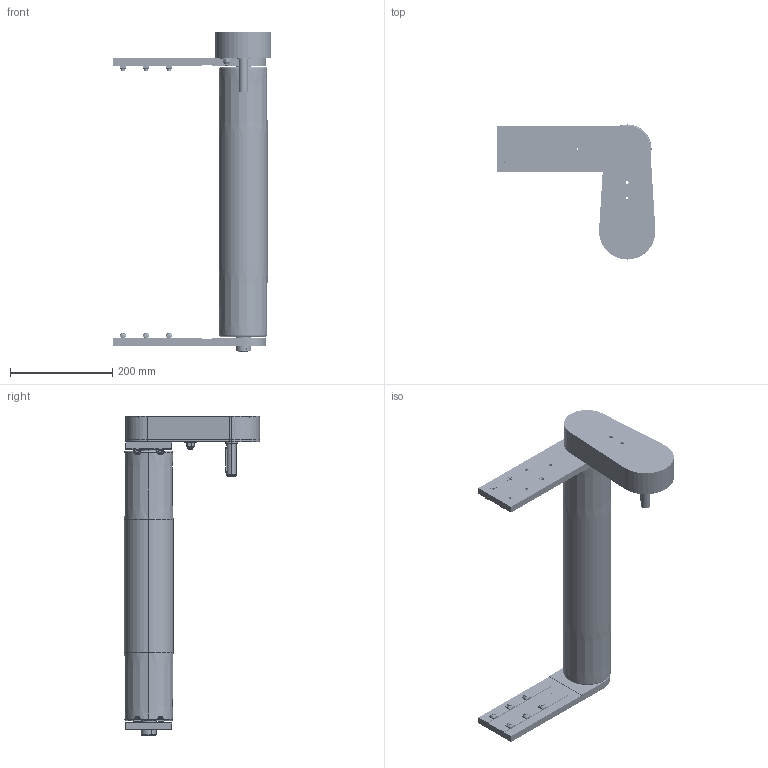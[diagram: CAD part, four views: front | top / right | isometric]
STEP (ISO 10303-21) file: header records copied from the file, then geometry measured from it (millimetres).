
FILE_DESCRIPTION (( 'STEP AP203' ), '1' );
FILE_NAME ('084.095.KTC.44.500.STEP', '2019-07-30T07:38:10', ( '' ), ( '' ), 'SwSTEP 2.0', 'SolidWorks 2018', '' );
FILE_SCHEMA (( 'CONFIG_CONTROL_DESIGN' ));
Length unit declared in the file: millimetre
Products named in the file (24): 084.816.108_084.816.108; 084.809.003; 084.808.002_084.808.002; 084.803.014; 084.095.KTC.44.500; 084.812.003; 084.301.000 VITI ALUSIC_084.301.003; 084.813.004; 084.810.003; Circlip DIN 471 - 8 x 0.8_Circlip DIN 471 - 8 x 0.8; 084.810.004; RONDELLE FASCIA LARGA UNI 6593_8.4x24 UNI 6593; 084.809.001; CUSCINETTI A SFERE_608-2RS; 084.802.034_084.802.034; 084.808.003_084.808.003; 084.802.019_084.802.019; 084.810.010; 084.302.000 DADI ALUSIC 13x13_084.302.004; 084.810.005; 084.813.002; DADI ESAGONALI AUTOBLOCCANTI UNI 7473 INOX_M8 UNI 7473 INOX; 084.803.012; CHIAVETTE_A 6x6x50 UNI 6604-69
Assembly tree (48 placements, depth 3):
  084.095.KTC.44.500
    084.816.108_084.816.108
    084.812.003
    084.813.002
    084.810.003  x2
    084.802.034_084.802.034
    084.802.019_084.802.019
    084.808.003_084.808.003
    084.808.002_084.808.002
    084.809.001
    084.803.014  x2
    084.803.012
    CHIAVETTE_A 6x6x50 UNI 6604-69
    084.810.005
      084.810.010
      084.810.004
      CUSCINETTI A SFERE_608-2RS  x2
      Circlip DIN 471 - 8 x 0.8_Circlip DIN 471 - 8 x 0.8
      RONDELLE FASCIA LARGA UNI 6593_8.4x24 UNI 6593
      DADI ESAGONALI AUTOBLOCCANTI UNI 7473 INOX_M8 UNI 7473 INOX
    084.809.003
    084.301.000 VITI ALUSIC_084.301.003  x12
    084.302.000 DADI ALUSIC 13x13_084.302.004  x12
    084.813.004
Bounding box: 310 x 264 x 623.5 mm (x, y, z)
Volume: 2173058.9 mm3; surface area: 986330.7 mm2
Topology: 77 solids, 78 shells, 3204 faces, 7597 edges, 4867 vertices
Faces by surface type: cylinder 1475, plane 908, bspline 516, cone 186, torus 110, sphere 9
Entity records: 85599 total; most frequent: CARTESIAN_POINT 19733, DIRECTION 14085, ORIENTED_EDGE 12476, EDGE_CURVE 6238, AXIS2_PLACEMENT_3D 5908, VERTEX_POINT 3984, CIRCLE 3712, EDGE_LOOP 3236
